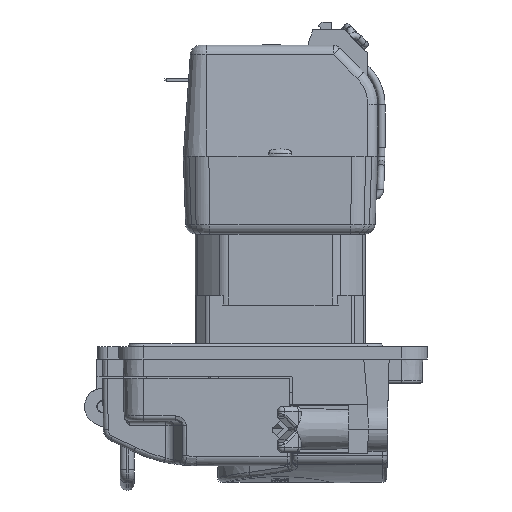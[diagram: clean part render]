
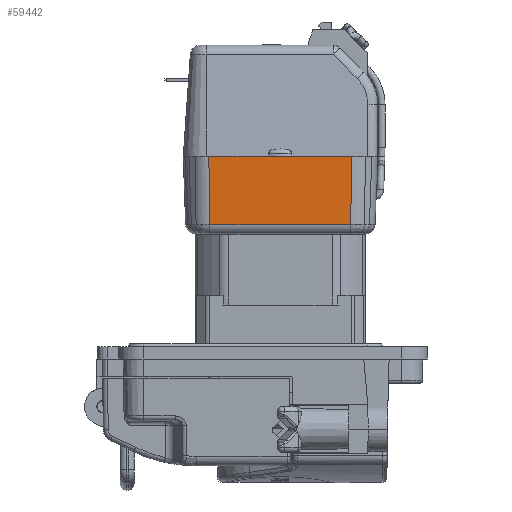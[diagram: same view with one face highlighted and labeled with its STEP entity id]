
A CAD part, left-side view. The second image highlights one B-rep face of the part: STEP entity #59442.
In plain terms, the highlighted planar face has unit normal (-0.999, 0, -0.035) as drawn and (0.999, 0, -0.035) by its records, which use the part's own axes.
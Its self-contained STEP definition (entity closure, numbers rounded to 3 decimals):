
#60 = DIRECTION ( 'NONE',  ( 0.999, 0., -0.035 ) ) ;
#2628 = CARTESIAN_POINT ( 'NONE',  ( 19.991, 18.434, -1.766 ) ) ;
#3345 = DIRECTION ( 'NONE',  ( 0., 1., 0. ) ) ;
#8520 = CARTESIAN_POINT ( 'NONE',  ( 20., 0., -1.5 ) ) ;
#9050 = VECTOR ( 'NONE', #36109, 1000. ) ;
#9288 = CARTESIAN_POINT ( 'NONE',  ( 19.509, -10.735, -15.57 ) ) ;
#18703 = VECTOR ( 'NONE', #36936, 1000. ) ;
#19832 = CARTESIAN_POINT ( 'NONE',  ( 20., 0., -1.5 ) ) ;
#19983 = VECTOR ( 'NONE', #87421, 1000. ) ;
#20827 = CARTESIAN_POINT ( 'NONE',  ( 19.509, 18.207, -15.57 ) ) ;
#28333 = LINE ( 'NONE', #62620, #19983 ) ;
#29460 = VERTEX_POINT ( 'NONE', #92557 ) ;
#30243 = ORIENTED_EDGE ( 'NONE', *, *, #98490, .T. ) ;
#31187 = AXIS2_PLACEMENT_3D ( 'NONE', #8520, #60, #109269 ) ;
#32437 = EDGE_CURVE ( 'NONE', #29460, #83290, #28333, .T. ) ;
#36109 = DIRECTION ( 'NONE',  ( 0., -1., 0. ) ) ;
#36936 = DIRECTION ( 'NONE',  ( 0.035, 0.014, 0.999 ) ) ;
#42786 = VECTOR ( 'NONE', #3345, 1000. ) ;
#43987 = LINE ( 'NONE', #19832, #9050 ) ;
#49062 = VERTEX_POINT ( 'NONE', #105732 ) ;
#51817 = FACE_OUTER_BOUND ( 'NONE', #59427, .T. ) ;
#53692 = EDGE_CURVE ( 'NONE', #49062, #29460, #43987, .T. ) ;
#59427 = EDGE_LOOP ( 'NONE', ( #90252, #85339, #30243, #92786 ) ) ;
#59442 = ADVANCED_FACE ( 'NONE', ( #51817 ), #85610, .T. ) ;
#59513 = CARTESIAN_POINT ( 'NONE',  ( 19.509, 18.235, -15.57 ) ) ;
#62620 = CARTESIAN_POINT ( 'NONE',  ( 19.994, -10.936, -1.658 ) ) ;
#75229 = VERTEX_POINT ( 'NONE', #59513 ) ;
#79706 = LINE ( 'NONE', #2628, #18703 ) ;
#83290 = VERTEX_POINT ( 'NONE', #9288 ) ;
#85339 = ORIENTED_EDGE ( 'NONE', *, *, #107600, .T. ) ;
#85610 = PLANE ( 'NONE',  #31187 ) ;
#87421 = DIRECTION ( 'NONE',  ( -0.035, 0.014, -0.999 ) ) ;
#88351 = LINE ( 'NONE', #20827, #42786 ) ;
#90252 = ORIENTED_EDGE ( 'NONE', *, *, #32437, .T. ) ;
#92557 = CARTESIAN_POINT ( 'NONE',  ( 20., -10.938, -1.5 ) ) ;
#92786 = ORIENTED_EDGE ( 'NONE', *, *, #53692, .T. ) ;
#98490 = EDGE_CURVE ( 'NONE', #75229, #49062, #79706, .T. ) ;
#105732 = CARTESIAN_POINT ( 'NONE',  ( 20., 18.438, -1.5 ) ) ;
#107600 = EDGE_CURVE ( 'NONE', #83290, #75229, #88351, .T. ) ;
#109269 = DIRECTION ( 'NONE',  ( 0., -1., 0. ) ) ;
